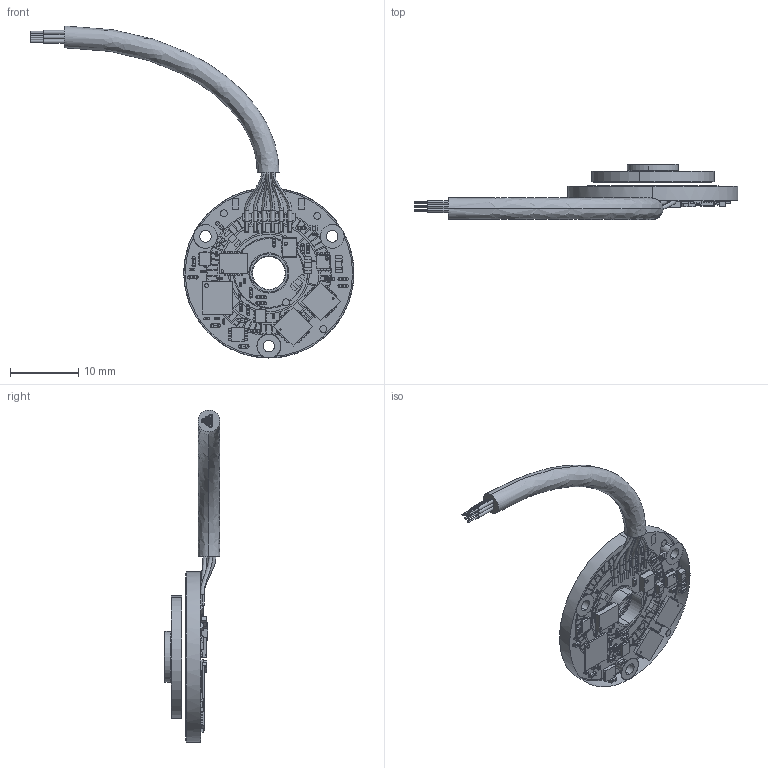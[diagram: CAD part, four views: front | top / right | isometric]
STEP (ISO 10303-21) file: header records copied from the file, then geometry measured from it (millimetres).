
FILE_DESCRIPTION (( 'STEP AP214' ), '1' );
FILE_NAME ('VLP-25 16-3 Insert rotor.STEP', '2025-03-23T13:34:50', ( '' ), ( '' ), 'SwSTEP 2.0', 'SolidWorks 2022', '' );
FILE_SCHEMA (( 'AUTOMOTIVE_DESIGN' ));
Length unit declared in the file: millimetre
Products named in the file (7): VLP-25 16-3 Insert rotor; VLP-25 Rotor_Midshaft custom; MP-03785; EA-00557_VLP-25; PB-00557-Components_VLP without copper; VLP-25 cable_Flying leads; VLP-25 Tranceiver_PB-00557
Assembly tree (6 placements, depth 3):
  VLP-25 16-3 Insert rotor
    EA-00557_VLP-25
      VLP-25 Tranceiver_PB-00557
      PB-00557-Components_VLP without copper
    VLP-25 Rotor_Midshaft custom
    VLP-25 cable_Flying leads
    MP-03785
Bounding box: 47.6 x 8.17 x 48.8 mm (x, y, z)
Volume: 1745.4 mm3; surface area: 2950.4 mm2
Topology: 16 solids, 326 shells, 6420 faces, 15823 edges, 10397 vertices
Faces by surface type: plane 3879, cylinder 1181, bspline 1114, sphere 224, cone 14, torus 8
Entity records: 316627 total; most frequent: CARTESIAN_POINT 99193, ORIENTED_EDGE 30782, DIRECTION 26367, EDGE_CURVE 15407, VECTOR 10633, LINE 10633, VERTEX_POINT 10205, AXIS2_PLACEMENT_3D 7867
